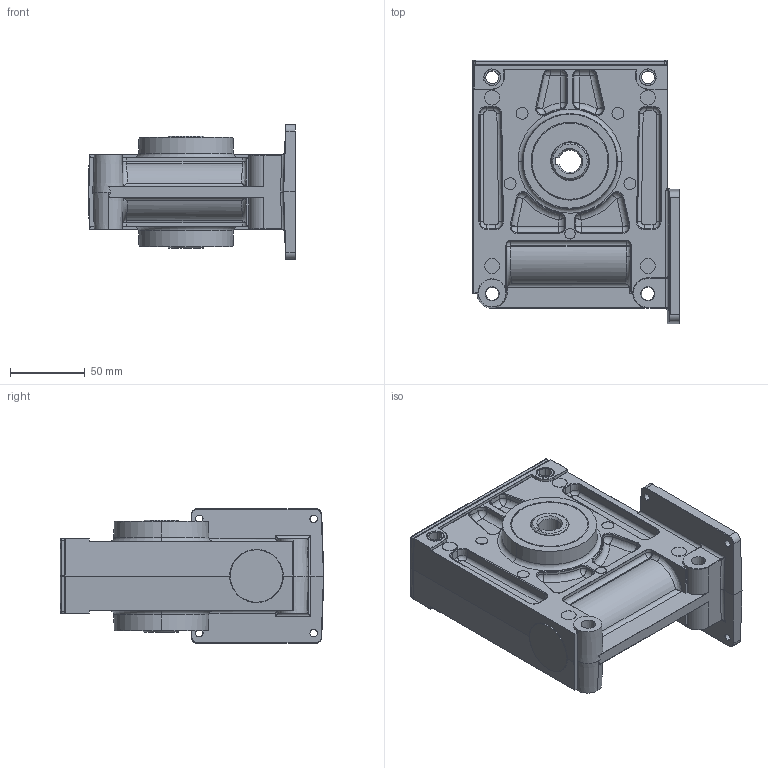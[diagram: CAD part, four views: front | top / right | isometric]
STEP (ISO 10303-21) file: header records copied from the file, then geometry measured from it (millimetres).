
FILE_DESCRIPTION (( 'STEP AP214' ), '1' );
FILE_NAME ('GB9-Modular.STEP', '2023-08-16T13:35:32', ( '' ), ( '' ), 'SwSTEP 2.0', 'SolidWorks 2020', '' );
FILE_SCHEMA (( 'AUTOMOTIVE_DESIGN' ));
Length unit declared in the file: millimetre
Products named in the file (1): GB9-Modular
Bounding box: 138 x 176.1 x 90 mm (x, y, z)
Volume: 475593.7 mm3; surface area: 206106.3 mm2
Topology: 18 solids, 18 shells, 1375 faces, 3213 edges, 1899 vertices
Faces by surface type: cylinder 482, plane 345, cone 213, torus 205, bspline 97, sphere 33
Entity records: 57354 total; most frequent: CARTESIAN_POINT 10910, DIRECTION 6853, ORIENTED_EDGE 6360, EDGE_CURVE 3180, AXIS2_PLACEMENT_3D 2745, VERTEX_POINT 1899, EDGE_LOOP 1503, CIRCLE 1466
